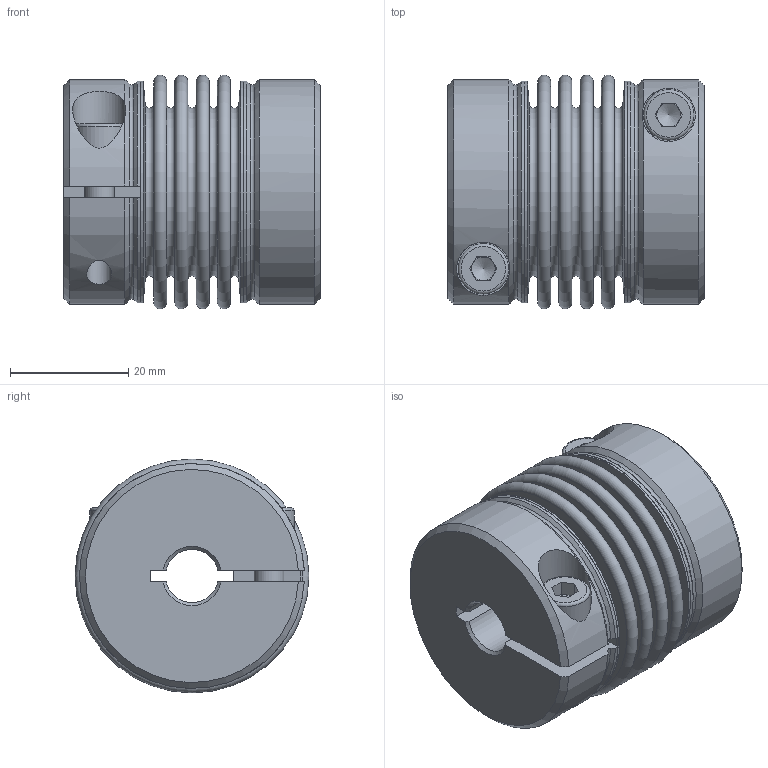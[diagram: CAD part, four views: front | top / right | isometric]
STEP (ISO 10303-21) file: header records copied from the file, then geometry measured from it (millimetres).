
FILE_DESCRIPTION( ( 'Unknown' ), '1' );
FILE_NAME( 'F:/JAKOB-STEP+IGES-Dateien/STEP-Dateien/KG-VA/KG-VA 15 - 4W.stp', 'Unknown', ( 'Unknown' ), ( 'Unknown' ), 'PSStep 10.1', 'Unknown', ' ' );
FILE_SCHEMA( ( 'AUTOMOTIVE_DESIGN { 1 0 10303 214 1 1 1 1 }' ) );
Length unit declared in the file: millimetre
Products named in the file (3): 28816947
Bounding box: 43.33 x 39.5 x 39.5 mm (x, y, z)
Volume: 28678.6 mm3; surface area: 23173.1 mm2
Topology: 3 solids, 3 shells, 128 faces, 288 edges, 188 vertices
Faces by surface type: plane 64, cylinder 22, torus 22, cone 20
Full cylindrical faces by diameter (mm): 4.2 x2, 5 x2, 5.4 x2, 8.5 x2, 9 x2, 36.7 x2, 37.5 x2
Entity records: 4606 total; most frequent: CARTESIAN_POINT 815, DIRECTION 610, ORIENTED_EDGE 464, AXIS2_PLACEMENT_3D 257, EDGE_CURVE 232, EDGE_LOOP 196, VERTEX_POINT 174, FACE_OUTER_BOUND 162
